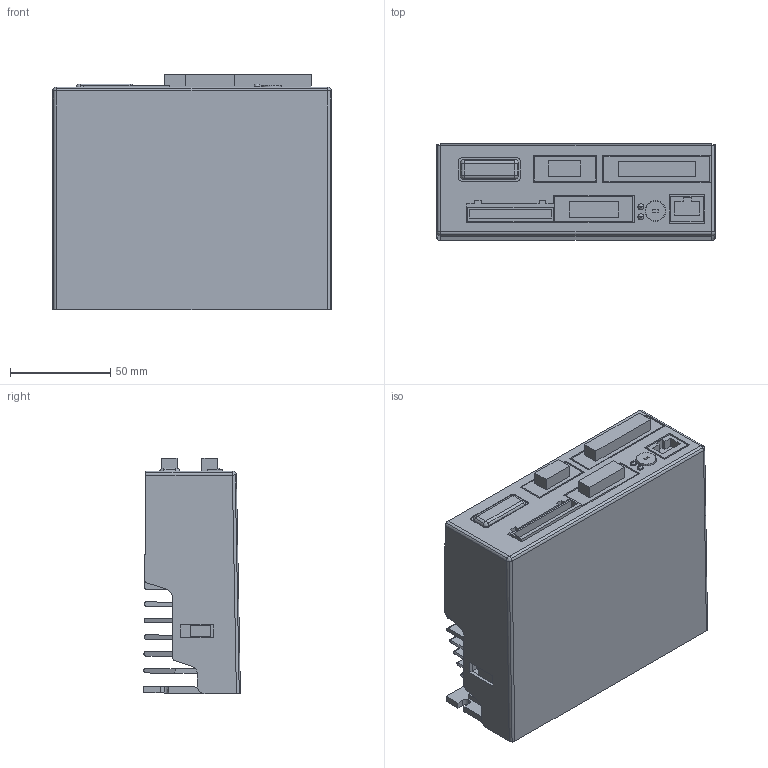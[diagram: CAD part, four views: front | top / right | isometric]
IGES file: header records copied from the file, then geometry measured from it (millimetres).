
Start section:  PTC IGES file: cu_smd-7620_smd-7621.igs
Global section: file name: cu_smd-7620_smd-7621.igs; native system: Pro/ENGINEER by Parametric Technology Corporation; preprocessor: 2011490; author: jbuhisan; organization: Unknown; date: 20130724.112137; units: inch
Bounding box: 139 x 48.27 x 117.25 mm (x, y, z)
Surface area: 100137.7 mm2 (no closed solid volume)
Topology: 0 solids, 0 shells, 244 faces, 1320 edges, 1314 vertices
Faces by surface type: bspline 156, revolution 87, extrusion 1
